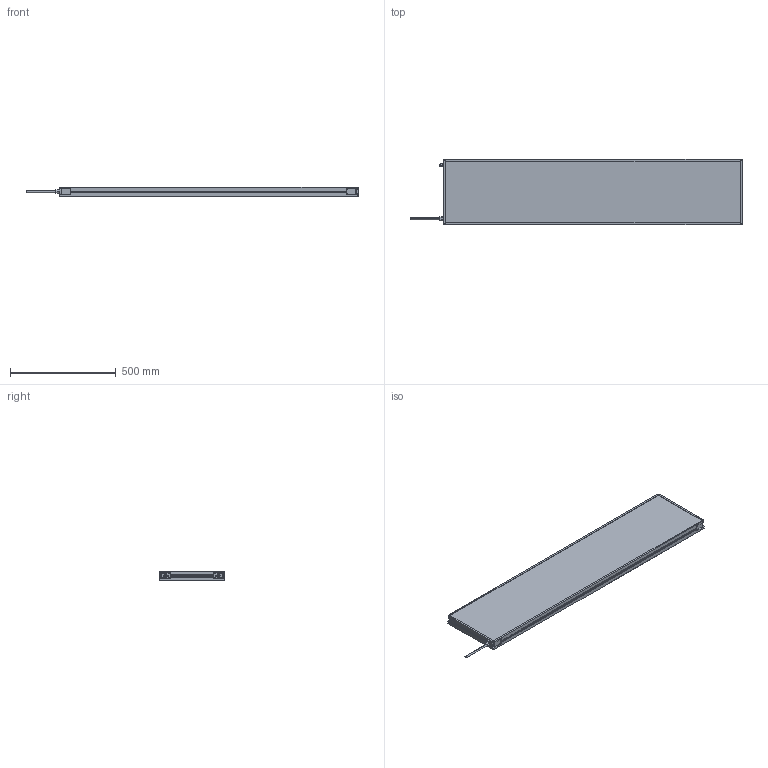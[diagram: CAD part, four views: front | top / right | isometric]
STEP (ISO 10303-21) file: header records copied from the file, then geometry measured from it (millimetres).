
FILE_DESCRIPTION (( 'STEP AP214' ), '1' );
FILE_NAME ('MBACK-xxxx-xxx-M1A2_CLIENT300x1400.STEP', '2022-04-01T11:32:33', ( '' ), ( '' ), 'SwSTEP 2.0', 'SolidWorks 2020', '' );
FILE_SCHEMA (( 'AUTOMOTIVE_DESIGN' ));
Length unit declared in the file: millimetre
Products named in the file (1): MBACK-xxxx-xxx-M1A2_CLIENT300x1400
Bounding box: 1567.4 x 308 x 45.5 mm (x, y, z)
Volume: 18023509.2 mm3; surface area: 1101223.3 mm2
Topology: 1 solids, 1 shells, 470 faces, 1210 edges, 804 vertices
Faces by surface type: plane 265, cylinder 117, bspline 80, cone 8
Entity records: 18046 total; most frequent: CARTESIAN_POINT 6837, ORIENTED_EDGE 2420, DIRECTION 2082, EDGE_CURVE 1210, VERTEX_POINT 804, VECTOR 800, LINE 800, AXIS2_PLACEMENT_3D 641
